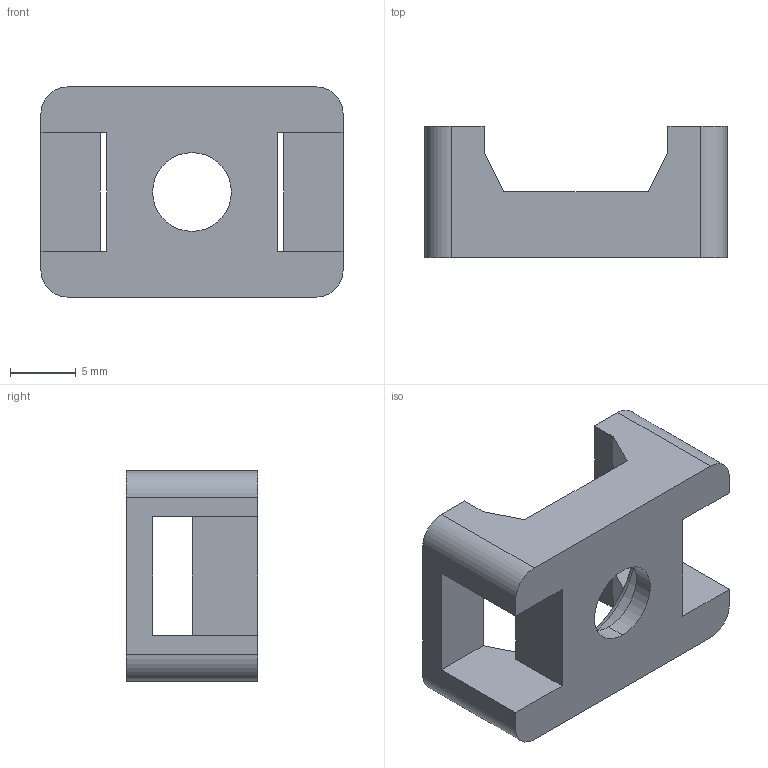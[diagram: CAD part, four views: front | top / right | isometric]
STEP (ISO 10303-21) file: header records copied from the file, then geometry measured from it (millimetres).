
FILE_DESCRIPTION (( 'STEP AP214' ), '1' );
FILE_NAME ('18952.STEP', '2018-03-13T07:45:36', ( '' ), ( '' ), 'SwSTEP 2.0', 'SolidWorks 2014', '' );
FILE_SCHEMA (( 'AUTOMOTIVE_DESIGN' ));
Length unit declared in the file: millimetre
Products named in the file (2): 18952
Bounding box: 23 x 10 x 16 mm (x, y, z)
Volume: 1423.9 mm3; surface area: 1620.4 mm2
Topology: 1 solids, 1 shells, 34 faces, 100 edges, 64 vertices
Faces by surface type: plane 24, cylinder 8, torus 2
Entity records: 1183 total; most frequent: ORIENTED_EDGE 200, CARTESIAN_POINT 200, DIRECTION 194, EDGE_CURVE 100, LINE 78, VECTOR 78, VERTEX_POINT 64, AXIS2_PLACEMENT_3D 58
